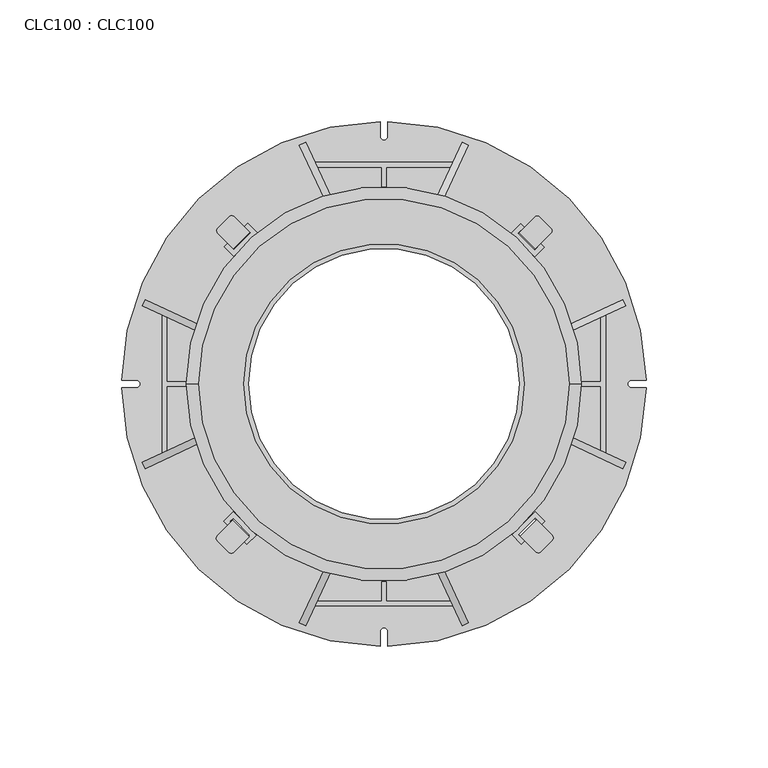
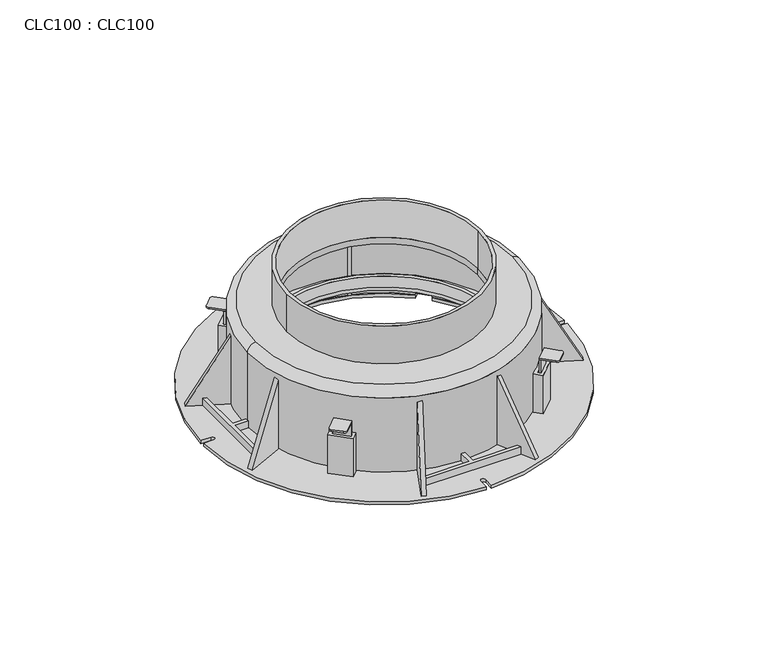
"""IFC4 building model written with IfcOpenShell, lengths in millimetres: proxy geometry, CLC100 : CLC100."""

from ifc_helpers import new_model, si_unit, point, frame, frame_2d, origin, origin_with_axes, origin_2d, place, context, project, spatial, polyline, circle_curve, ellipse_curve, trimmed, segment, composite_curve, outline, extrude, source, transform, mapped, element, save
from ifc_brep_helpers import plane_surface, cylinder_surface, revolved_surface, advanced_brep


def clc100_clc100_ec5de276(model_context):
    return source(origin(), model_context, "Body", "SolidModel", [
        extrude(outline(composite_curve([segment(trimmed(circle_curve(frame_2d((-67.0684866, 62.9016418)), 1.5), [point((-68.1291468, 61.8409816))], [point((-68.1291468, 63.9623019))], False, "CARTESIAN"), True, "CONTINUOUS"), segment(polyline([(-68.1291468, 63.9623019), (-63.5590618, 68.532387)]), True, "CONTINUOUS"), segment(trimmed(circle_curve(frame_2d((-62.4984016, 67.4717268)), 1.5), [point((-63.5590618, 68.532387))], [point((-61.4421098, 68.5367374))], False, "CARTESIAN"), True, "CONTINUOUS"), segment(polyline([(-61.4421098, 68.5367374), (-55.0476146, 62.1945917), (-61.7651857, 55.4770206), (-68.1291468, 61.8409816)]), True, "CONTINUOUS")], self_intersect=False)), frame((0.0, 0.0, 34.0), z_axis=(0.0, 0.0, 1.0), x_axis=(1.0, 0.0, 0.0)), (0.0, 0.0, 1.0), 1.0),
        extrude(outline(polyline([(-62.4751928, 56.1812151), (-55.7853449, 62.9262825), (-55.0753378, 62.222088), (-61.7651857, 55.4770206), (-62.4751928, 56.1812151)])), frame((0.0, 0.0, 14.4), z_axis=(0.0, 0.0, 1.0), x_axis=(1.0, 0.0, 0.0)), (0.0, 0.0, 1.0), 19.6),
        extrude(outline(polyline([(-65.5036952, 56.3609907), (-55.9577536, 65.9069322), (-52.0686663, 62.0178449), (-61.6146079, 52.4719034), (-65.5036952, 56.3609907)]), holes=[polyline([(-54.8970935, 62.0178449), (-55.9577536, 63.0785051), (-62.6752681, 56.3609907), (-61.6146079, 55.3003305), (-54.8970935, 62.0178449)])]), frame((0.0, 0.0, 2.0), z_axis=(0.0, 0.0, 1.0), x_axis=(1.0, 0.0, 0.0)), (0.0, 0.0, 1.0), 24.0),
        extrude(outline(composite_curve([segment(polyline([(68.4969756, 61.7522741), (62.1330146, 55.3883131), (55.4154434, 62.1058843), (61.8099387, 68.44803)]), True, "CONTINUOUS"), segment(trimmed(circle_curve(frame_2d((62.8662304, 67.3830193)), 1.5), [point((61.8099387, 68.44803))], [point((63.9268906, 68.4436795))], False, "CARTESIAN"), True, "CONTINUOUS"), segment(polyline([(63.9268906, 68.4436795), (68.4969756, 63.8735945)]), True, "CONTINUOUS"), segment(trimmed(circle_curve(frame_2d((67.4363155, 62.8129343)), 1.5), [point((68.4969756, 63.8735945))], [point((68.4969756, 61.7522741))], False, "CARTESIAN"), True, "CONTINUOUS")], self_intersect=False)), frame((0.0, 0.0, 34.0), z_axis=(0.0, 0.0, 1.0), x_axis=(1.0, 0.0, 0.0)), (0.0, 0.0, 1.0), 1.0),
        extrude(outline(polyline([(62.8430217, 56.0925076), (62.1330146, 55.3883131), (55.4431667, 62.1333805), (56.1531738, 62.8375751), (62.8430217, 56.0925076)])), frame((0.0, 0.0, 14.4), z_axis=(0.0, 0.0, 1.0), x_axis=(1.0, 0.0, 0.0)), (0.0, 0.0, 1.0), 19.6),
        extrude(outline(polyline([(65.6714249, 56.0808824), (61.7663859, 52.2078126), (52.2597599, 61.7929085), (56.164799, 65.6659783), (65.6714249, 56.0808824)]), holes=[polyline([(55.0881631, 61.7812833), (61.778011, 55.0362158), (62.8430217, 56.0925076), (56.1531738, 62.8375751), (55.0881631, 61.7812833)])]), frame((0.0, 0.0, 2.0), z_axis=(0.0, 0.0, 1.0), x_axis=(1.0, 0.0, 0.0)), (0.0, 0.0, 1.0), 24.0),
        extrude(outline(composite_curve([segment(polyline([(62.2332882, -68.7389117), (55.8693272, -62.3749506), (62.5868983, -55.6573795), (68.929044, -62.0518747)]), True, "CONTINUOUS"), segment(trimmed(circle_curve(frame_2d((67.8640334, -63.1081665)), 1.5), [point((68.929044, -62.0518747))], [point((68.9246936, -64.1688267))], False, "CARTESIAN"), True, "CONTINUOUS"), segment(polyline([(68.9246936, -64.1688267), (64.3546085, -68.7389117)]), True, "CONTINUOUS"), segment(trimmed(circle_curve(frame_2d((63.2939484, -67.6782515)), 1.5), [point((64.3546085, -68.7389117))], [point((62.2332882, -68.7389117))], False, "CARTESIAN"), True, "CONTINUOUS")], self_intersect=False)), frame((0.0, 0.0, 34.0), z_axis=(0.0, 0.0, 1.0), x_axis=(1.0, 0.0, 0.0)), (0.0, 0.0, 1.0), 1.0),
        extrude(outline(polyline([(56.5735217, -63.0849577), (55.8693272, -62.3749506), (62.6143946, -55.6851027), (63.3185891, -56.3951098), (56.5735217, -63.0849577)])), frame((0.0, 0.0, 14.4), z_axis=(0.0, 0.0, 1.0), x_axis=(1.0, 0.0, 0.0)), (0.0, 0.0, 1.0), 19.6),
        extrude(outline(polyline([(56.4017371, -65.7618999), (52.5126498, -61.8728126), (62.0585914, -52.3268711), (65.9476787, -56.2159584), (56.4017371, -65.7618999)]), holes=[polyline([(62.0585914, -55.1552982), (55.3410769, -61.8728126), (56.4017371, -62.9334728), (63.1192515, -56.2159584), (62.0585914, -55.1552982)])]), frame((0.0, 0.0, 2.0), z_axis=(0.0, 0.0, 1.0), x_axis=(1.0, 0.0, 0.0)), (0.0, 0.0, 1.0), 24.0),
        extrude(outline(composite_curve([segment(trimmed(circle_curve(frame_2d((-62.6568377, -67.8909797)), 1.5), [point((-61.5961775, -68.9516399))], [point((-63.7174979, -68.9516399))], False, "CARTESIAN"), True, "CONTINUOUS"), segment(polyline([(-63.7174979, -68.9516399), (-68.2875829, -64.3815549)]), True, "CONTINUOUS"), segment(trimmed(circle_curve(frame_2d((-67.2269227, -63.3208947)), 1.5), [point((-68.2875829, -64.3815549))], [point((-68.2919334, -62.2646029))], False, "CARTESIAN"), True, "CONTINUOUS"), segment(polyline([(-68.2919334, -62.2646029), (-61.9497877, -55.8701077), (-55.2322165, -62.5876788), (-61.5961775, -68.9516399)]), True, "CONTINUOUS")], self_intersect=False)), frame((0.0, 0.0, 34.0), z_axis=(0.0, 0.0, 1.0), x_axis=(1.0, 0.0, 0.0)), (0.0, 0.0, 1.0), 1.0),
        extrude(outline(polyline([(-55.936411, -63.2976859), (-62.6814785, -56.607838), (-61.977284, -55.8978309), (-55.2322165, -62.5876788), (-55.936411, -63.2976859)])), frame((0.0, 0.0, 14.4), z_axis=(0.0, 0.0, 1.0), x_axis=(1.0, 0.0, 0.0)), (0.0, 0.0, 1.0), 19.6),
        extrude(outline(polyline([(-56.3069632, -65.8223817), (-65.8135892, -56.2372859), (-61.9085501, -52.364216), (-52.4019242, -61.9493119), (-56.3069632, -65.8223817)]), holes=[polyline([(-61.9201753, -55.1926193), (-62.9851859, -56.248911), (-56.295338, -62.9939785), (-55.2303274, -61.9376867), (-61.9201753, -55.1926193)])]), frame((0.0, 0.0, 2.0), z_axis=(0.0, 0.0, 1.0), x_axis=(1.0, 0.0, 0.0)), (0.0, 0.0, 1.0), 24.0),
        extrude(outline(polyline([(-1.0, -81.0), (1.0, -81.0), (1.0, -89.0), (27.3663457, -89.0), (28.298961, -91.0), (-28.298961, -91.0), (-27.3663457, -89.0), (-1.0, -89.0), (-1.0, -81.0)])), frame((0.0, 0.0, 2.0), z_axis=(0.0, 0.0, 1.0), x_axis=(1.0, 0.0, 0.0)), (0.0, 0.0, 1.0), 4.5),
        extrude(outline(polyline([(51.4781507, 0.0), (12.1410733, -21.8539319), (0.0, 0.0), (51.4781507, 0.0)])), frame((32.1180118, -99.1899807, 2.0), z_axis=(0.906307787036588, 0.4226182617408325, 0.0), x_axis=(-0.2052415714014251, 0.4401419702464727, 0.874157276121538)), (0.0, 0.0, 1.0), 2.8),
        extrude(outline(polyline([(45.0, 0.0), (0.0, -25.0), (0.0, 0.0), (45.0, 0.0)])), frame((-21.5525552, -76.5322861, 2.0), z_axis=(-0.906307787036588, 0.4226182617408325, 0.0), x_axis=(0.0, 0.0, 1.0)), (0.0, 0.0, 1.0), 2.8),
        extrude(outline(polyline([(81.0, -1.0), (81.0, 1.0), (89.0, 1.0), (89.0, 27.3663457), (91.0, 28.298961), (91.0, -28.298961), (89.0, -27.3663457), (89.0, -1.0), (81.0, -1.0)])), frame((0.0, 0.0, 2.0), z_axis=(0.0, 0.0, 1.0), x_axis=(1.0, 0.0, 0.0)), (0.0, 0.0, 1.0), 4.5),
        extrude(outline(polyline([(-45.0, 0.0), (0.0, 0.0), (0.0, -25.0), (-45.0, 0.0)])), frame((76.5322861, 21.5525552, 2.0), z_axis=(-0.4226182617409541, 0.9063077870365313, 0.0), x_axis=(0.0, 0.0, -1.0)), (0.0, 0.0, 1.0), 2.8),
        extrude(outline(polyline([(51.4781507, 0.0), (12.1410733, -21.8539319), (0.0, 0.0), (51.4781507, 0.0)])), frame((98.0066496, -34.6556736, 2.0), z_axis=(0.4226182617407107, 0.9063077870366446, 0.0), x_axis=(-0.4401419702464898, 0.20524157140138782, 0.8741572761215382)), (0.0, 0.0, 1.0), 2.8),
        extrude(outline(polyline([(1.0, 81.0), (-1.0, 81.0), (-1.0, 89.0), (-27.3663457, 89.0), (-28.298961, 91.0), (28.298961, 91.0), (27.3663457, 89.0), (1.0, 89.0), (1.0, 81.0)])), frame((0.0, 0.0, 2.0), z_axis=(0.0, 0.0, 1.0), x_axis=(1.0, 0.0, 0.0)), (0.0, 0.0, 1.0), 4.5),
        extrude(outline(polyline([(45.0, 0.0), (0.0, -25.0), (0.0, 0.0), (45.0, 0.0)])), frame((-24.090217, 75.3489549, 2.0), z_axis=(0.906307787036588, 0.4226182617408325, 0.0), x_axis=(0.0, 0.0, 1.0)), (0.0, 0.0, 1.0), 2.8),
        extrude(outline(polyline([(51.4781507, 0.0), (12.1410733, -21.8539319), (0.0, 0.0), (51.4781507, 0.0)])), frame((34.6556736, 98.0066496, 2.0), z_axis=(-0.906307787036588, 0.4226182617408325, 0.0), x_axis=(-0.20524157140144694, -0.4401419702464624, 0.8741572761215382)), (0.0, 0.0, 1.0), 2.8),
        extrude(outline(polyline([(-81.0, 1.0), (-81.0, -1.0), (-89.0, -1.0), (-89.0, -27.3663457), (-91.0, -28.298961), (-91.0, 28.298961), (-89.0, 27.3663457), (-89.0, 1.0), (-81.0, 1.0)])), frame((0.0, 0.0, 2.0), z_axis=(0.0, 0.0, 1.0), x_axis=(1.0, 0.0, 0.0)), (0.0, 0.0, 1.0), 4.5),
        extrude(outline(polyline([(-51.4781507, 0.0), (0.0, 0.0), (-12.1410733, -21.8539319), (-51.4781507, 0.0)])), frame((-98.0066496, -34.6556736, 2.0), z_axis=(-0.4226182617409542, 0.9063077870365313, 0.0), x_axis=(-0.4401419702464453, -0.20524157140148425, -0.8741572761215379)), (0.0, 0.0, 1.0), 2.8),
        extrude(outline(polyline([(45.0, 0.0), (0.0, -25.0), (0.0, 0.0), (45.0, 0.0)])), frame((-76.5322861, 21.5525552, 2.0), z_axis=(0.4226182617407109, 0.9063077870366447, 0.0), x_axis=(0.0, 0.0, 1.0)), (0.0, 0.0, 1.0), 2.8),
        extrude(outline(composite_curve([segment(trimmed(circle_curve(origin_2d(), 57.5), [point((-57.5, 0.0))], [point((57.5, 0.0))], False, "CARTESIAN"), True, "CONTINUOUS"), segment(trimmed(circle_curve(origin_2d(), 57.5), [point((57.5, 0.0))], [point((-57.5, 0.0))], False, "CARTESIAN"), True, "CONTINUOUS")], self_intersect=False), holes=[composite_curve([segment(trimmed(circle_curve(origin_2d(), 55.5), [point((-55.5, 0.0))], [point((55.5, 0.0))], True, "CARTESIAN"), True, "CONTINUOUS"), segment(trimmed(circle_curve(origin_2d(), 55.5), [point((55.5, 0.0))], [point((-55.5, 0.0))], True, "CARTESIAN"), True, "CONTINUOUS")], self_intersect=False)]), frame((0.0, 0.0, 53.5), z_axis=(0.0, 0.0, 1.0), x_axis=(1.0, 0.0, 0.0)), (0.0, 0.0, 1.0), 23.5),
        advanced_brep(
        [(-79.0, 0.0, 14.4), (79.0, 0.0, 14.4), (-69.0, 0.0, 14.4), (69.0, 0.0, 14.4), (-79.0, 0.0, 12.4), (79.0, 0.0, 12.4), (-67.0, 0.0, 12.4), (67.0, 0.0, 12.4), (67.0, 0.0, 14.4), (-67.0, 0.0, 14.4), (69.0, 0.0, 21.3), (-69.0, 0.0, 21.3), (-67.0, 0.0, 21.3), (67.0, 0.0, 21.3)],
        [
            (0, 1, circle_curve(frame((0.0, 0.0, 14.4), z_axis=(0.0, 0.0, 1.0), x_axis=(1.0, 0.0, 0.0)), 79.0)),
            (1, 0, circle_curve(frame((0.0, 0.0, 14.4), z_axis=(0.0, 0.0, 1.0), x_axis=(1.0, 0.0, 0.0)), 79.0)),
            (2, 3, circle_curve(frame((0.0, 0.0, 14.4), z_axis=(0.0, 0.0, -1.0), x_axis=(1.0, 0.0, 0.0)), 69.0)),
            (3, 2, circle_curve(frame((0.0, 0.0, 14.4), z_axis=(0.0, 0.0, -1.0), x_axis=(1.0, 0.0, 0.0)), 69.0)),
            (4, 5, circle_curve(frame((0.0, 0.0, 12.4), z_axis=(0.0, 0.0, -1.0), x_axis=(1.0, 0.0, 0.0)), 79.0)),
            (5, 4, circle_curve(frame((0.0, 0.0, 12.4), z_axis=(0.0, 0.0, -1.0), x_axis=(1.0, 0.0, 0.0)), 79.0)),
            (6, 7, circle_curve(frame((0.0, 0.0, 12.4), z_axis=(0.0, 0.0, 1.0), x_axis=(1.0, 0.0, 0.0)), 67.0)),
            (7, 6, circle_curve(frame((0.0, 0.0, 12.4), z_axis=(0.0, 0.0, 1.0), x_axis=(1.0, 0.0, 0.0)), 67.0)),
            (7, 8),
            (8, 9, circle_curve(frame((0.0, 0.0, 14.4), z_axis=(0.0, 0.0, 1.0), x_axis=(1.0, 0.0, 0.0)), 67.0)),
            (9, 6),
            (9, 8, circle_curve(frame((0.0, 0.0, 14.4), z_axis=(0.0, 0.0, 1.0), x_axis=(1.0, 0.0, 0.0)), 67.0)),
            (0, 4),
            (5, 1),
            (10, 11, circle_curve(frame((0.0, 0.0, 21.3), z_axis=(0.0, 0.0, 1.0), x_axis=(1.0, 0.0, 0.0)), 69.0)),
            (11, 10, circle_curve(frame((0.0, 0.0, 21.3), z_axis=(0.0, 0.0, 1.0), x_axis=(1.0, 0.0, 0.0)), 69.0)),
            (12, 13, circle_curve(frame((0.0, 0.0, 21.3), z_axis=(0.0, 0.0, -1.0), x_axis=(1.0, 0.0, 0.0)), 67.0)),
            (13, 12, circle_curve(frame((0.0, 0.0, 21.3), z_axis=(0.0, 0.0, -1.0), x_axis=(1.0, 0.0, 0.0)), 67.0)),
            (12, 9),
            (8, 13),
            (10, 3),
            (2, 11),
        ],
        [
            plane_surface(frame((67.0, 0.0, 14.4), z_axis=(0.0, 0.0, 1.0), x_axis=(0.0, -1.0, 0.0))),
            plane_surface(frame((67.0, 0.0, 12.4), z_axis=(0.0, 0.0, -1.0), x_axis=(0.0, 1.0, 0.0))),
            revolved_surface(polyline([(67.0, 0.0, 12.4), (67.0, 0.0, 14.4)]), (0.0, 0.0, 12.4), (0.0, 0.0, -1.0)),
            cylinder_surface(origin_with_axes(), 79.0),
            plane_surface(frame((67.0, 0.0, 21.3), z_axis=(0.0, 0.0, 1.0), x_axis=(0.0, -1.0, 0.0))),
            revolved_surface(polyline([(67.0, 0.0, 14.4), (67.0, 0.0, 21.3)]), (0.0, 0.0, 14.4), (0.0, 0.0, -1.0)),
            cylinder_surface(frame((0.0, 0.0, 14.4), z_axis=(0.0, 0.0, 1.0), x_axis=(1.0, 0.0, 0.0)), 69.0),
        ],
        [
            (0, [[1, 2], [3, 4]]),
            (1, [[5, 6], [7, 8]]),
            (2, [[-8, 9, 10, 11]]),
            (2, [[-7, -11, 12, -9]]),
            (3, [[-1, 13, -6, 14]]),
            (3, [[-2, -14, -5, -13]]),
            (4, [[15, 16], [17, 18]]),
            (5, [[-17, 19, -10, 20]]),
            (5, [[-18, -20, -12, -19]]),
            (6, [[-15, 21, -3, 22]]),
            (6, [[-16, -22, -4, -21]]),
        ],
    ),
        extrude(outline(composite_curve([segment(trimmed(circle_curve(frame_2d((101.487194, 0.0)), 1.5), [point((101.487194, 1.5))], [point((101.487194, -1.5))], True, "CARTESIAN"), True, "CONTINUOUS"), segment(polyline([(101.487194, -1.5), (107.4895344, -1.5)]), True, "CONTINUOUS"), segment(trimmed(circle_curve(origin_2d(), 107.5), [point((107.4895344, -1.5))], [point((1.5, -107.4895344))], False, "CARTESIAN"), True, "CONTINUOUS"), segment(polyline([(1.5, -107.4895344), (1.5, -101.487194)]), True, "CONTINUOUS"), segment(trimmed(circle_curve(frame_2d((0.0, -101.487194)), 1.5), [point((1.5, -101.487194))], [point((-1.5, -101.487194))], True, "CARTESIAN"), True, "CONTINUOUS"), segment(polyline([(-1.5, -101.487194), (-1.5, -107.4895344)]), True, "CONTINUOUS"), segment(trimmed(circle_curve(origin_2d(), 107.5), [point((-1.5, -107.4895344))], [point((-107.4895344, -1.5))], False, "CARTESIAN"), True, "CONTINUOUS"), segment(polyline([(-107.4895344, -1.5), (-101.487194, -1.5)]), True, "CONTINUOUS"), segment(trimmed(circle_curve(frame_2d((-101.487194, 0.0)), 1.5), [point((-101.487194, -1.5))], [point((-101.487194, 1.5))], True, "CARTESIAN"), True, "CONTINUOUS"), segment(polyline([(-101.487194, 1.5), (-107.4895344, 1.5)]), True, "CONTINUOUS"), segment(trimmed(circle_curve(origin_2d(), 107.5), [point((-107.4895344, 1.5))], [point((-1.5, 107.4895344))], False, "CARTESIAN"), True, "CONTINUOUS"), segment(polyline([(-1.5, 107.4895344), (-1.5, 101.487194)]), True, "CONTINUOUS"), segment(trimmed(circle_curve(frame_2d((0.0, 101.487194)), 1.5), [point((-1.5, 101.487194))], [point((1.5, 101.487194))], True, "CARTESIAN"), True, "CONTINUOUS"), segment(polyline([(1.5, 101.487194), (1.5, 107.4895344)]), True, "CONTINUOUS"), segment(trimmed(circle_curve(origin_2d(), 107.5), [point((1.5, 107.4895344))], [point((107.4895344, 1.5))], False, "CARTESIAN"), True, "CONTINUOUS"), segment(polyline([(107.4895344, 1.5), (101.487194, 1.5)]), True, "CONTINUOUS")], self_intersect=False), holes=[composite_curve([segment(trimmed(circle_curve(origin_2d(), 79.0), [point((58.9527166, -52.5887555))], [point((79.0, 0.0))], True, "CARTESIAN"), True, "CONTINUOUS"), segment(trimmed(circle_curve(origin_2d(), 79.0), [point((79.0, 0.0))], [point((58.9527166, 52.5887555))], True, "CARTESIAN"), True, "CONTINUOUS"), segment(polyline([(58.9527166, 52.5887555), (62.6261911, 56.26223), (56.26223, 62.6261911), (52.5887555, 58.9527166)]), True, "CONTINUOUS"), segment(trimmed(circle_curve(origin_2d(), 79.0), [point((52.5887555, 58.9527166))], [point((-52.5887555, 58.9527166))], True, "CARTESIAN"), True, "CONTINUOUS"), segment(polyline([(-52.5887555, 58.9527166), (-56.26223, 62.6261911), (-62.6261911, 56.26223), (-58.9527166, 52.5887555)]), True, "CONTINUOUS"), segment(trimmed(circle_curve(origin_2d(), 79.0), [point((-58.9527166, 52.5887555))], [point((-79.0, 0.0))], True, "CARTESIAN"), True, "CONTINUOUS"), segment(trimmed(circle_curve(origin_2d(), 79.0), [point((-79.0, 0.0))], [point((-58.9527166, -52.5887555))], True, "CARTESIAN"), True, "CONTINUOUS"), segment(polyline([(-58.9527166, -52.5887555), (-62.6261911, -56.26223), (-56.26223, -62.6261911), (-52.5887555, -58.9527166)]), True, "CONTINUOUS"), segment(trimmed(circle_curve(origin_2d(), 79.0), [point((-52.5887555, -58.9527166))], [point((52.5887555, -58.9527166))], True, "CARTESIAN"), True, "CONTINUOUS"), segment(polyline([(52.5887555, -58.9527166), (56.26223, -62.6261911), (62.6261911, -56.26223), (58.9527166, -52.5887555)]), True, "CONTINUOUS")], self_intersect=False)]), origin_with_axes(), (0.0, 0.0, 1.0), 2.0),
        advanced_brep(
        [(76.0, 0.0, 53.5), (-76.0, 0.0, 53.5), (55.5, 0.0, 53.5), (-55.5, 0.0, 53.5), (60.3691731, 54.0052121, 2.0), (81.0, 0.0, 2.0), (60.3691731, -54.0052121, 2.0), (58.9527166, -52.5887555, 2.0), (79.0, 0.0, 2.0), (58.9527166, 52.5887555, 2.0), (54.0052121, -60.3691731, 2.0), (-54.0052121, -60.3691731, 2.0), (-52.5887555, -58.9527166, 2.0), (52.5887555, -58.9527166, 2.0), (-81.0, 0.0, 2.0), (-60.3691731, 54.0052121, 2.0), (-58.9527166, 52.5887555, 2.0), (-79.0, 0.0, 2.0), (-58.9527166, -52.5887555, 2.0), (-60.3691731, -54.0052121, 2.0), (-54.0052121, 60.3691731, 2.0), (54.0052121, 60.3691731, 2.0), (52.5887555, 58.9527166, 2.0), (-52.5887555, 58.9527166, 2.0), (-81.0, 0.0, 48.5000153), (-60.3691731, -54.0052121, 5.0), (-54.0052121, -60.3691731, 5.0), (54.0052121, -60.3691731, 5.0), (60.3691731, -54.0052121, 5.0), (81.0, 0.0, 48.5000029), (60.3691731, 54.0052121, 5.0), (54.0052121, 60.3691731, 5.0), (-54.0052121, 60.3691731, 5.0), (-60.3691731, 54.0052121, 5.0), (-79.0, 0.0, 49.5), (79.0, 0.0, 49.5), (-55.5, 0.0, 49.5), (55.5, 0.0, 49.5), (58.9527166, -52.5887555, 5.0), (52.5887555, -58.9527166, 5.0), (-52.5887555, -58.9527166, 5.0), (-58.9527166, -52.5887555, 5.0), (-58.9527166, 52.5887555, 5.0), (-52.5887555, 58.9527166, 5.0), (52.5887555, 58.9527166, 5.0), (58.9527166, 52.5887555, 5.0)],
        [
            (0, 1, circle_curve(frame((0.0, 0.0, 53.5), z_axis=(0.0, 0.0, 1.0), x_axis=(1.0, 0.0, 0.0)), 76.0)),
            (1, 0, circle_curve(frame((0.0, 0.0, 53.5), z_axis=(0.0, 0.0, 1.0), x_axis=(1.0, 0.0, 0.0)), 76.0)),
            (2, 3, circle_curve(frame((0.0, 0.0, 53.5), z_axis=(0.0, 0.0, -1.0), x_axis=(1.0, 0.0, 0.0)), 55.5)),
            (3, 2, circle_curve(frame((0.0, 0.0, 53.5), z_axis=(0.0, 0.0, -1.0), x_axis=(1.0, 0.0, 0.0)), 55.5)),
            (4, 5, circle_curve(frame((0.0, 0.0, 2.0), z_axis=(0.0, 0.0, -1.0), x_axis=(1.0, 0.0, 0.0)), 81.0)),
            (5, 6, circle_curve(frame((0.0, 0.0, 2.0), z_axis=(0.0, 0.0, -1.0), x_axis=(1.0, 0.0, 0.0)), 81.0)),
            (6, 7),
            (7, 8, circle_curve(frame((0.0, 0.0, 2.0), z_axis=(0.0, 0.0, 1.0), x_axis=(1.0, 0.0, 0.0)), 79.0)),
            (8, 9, circle_curve(frame((0.0, 0.0, 2.0), z_axis=(0.0, 0.0, 1.0), x_axis=(1.0, 0.0, 0.0)), 79.0)),
            (9, 4),
            (10, 11, circle_curve(frame((0.0, 0.0, 2.0), z_axis=(0.0, 0.0, -1.0), x_axis=(1.0, 0.0, 0.0)), 81.0)),
            (11, 12),
            (12, 13, circle_curve(frame((0.0, 0.0, 2.0), z_axis=(0.0, 0.0, 1.0), x_axis=(1.0, 0.0, 0.0)), 79.0)),
            (13, 10),
            (14, 15, circle_curve(frame((0.0, 0.0, 2.0), z_axis=(0.0, 0.0, -1.0), x_axis=(1.0, 0.0, 0.0)), 81.0)),
            (15, 16),
            (16, 17, circle_curve(frame((0.0, 0.0, 2.0), z_axis=(0.0, 0.0, 1.0), x_axis=(1.0, 0.0, 0.0)), 79.0)),
            (17, 18, circle_curve(frame((0.0, 0.0, 2.0), z_axis=(0.0, 0.0, 1.0), x_axis=(1.0, 0.0, 0.0)), 79.0)),
            (18, 19),
            (19, 14, circle_curve(frame((0.0, 0.0, 2.0), z_axis=(0.0, 0.0, -1.0), x_axis=(1.0, 0.0, 0.0)), 81.0)),
            (20, 21, circle_curve(frame((0.0, 0.0, 2.0), z_axis=(0.0, 0.0, -1.0), x_axis=(1.0, 0.0, 0.0)), 81.0)),
            (21, 22),
            (22, 23, circle_curve(frame((0.0, 0.0, 2.0), z_axis=(0.0, 0.0, 1.0), x_axis=(1.0, 0.0, 0.0)), 79.0)),
            (23, 20),
            (24, 14),
            (19, 25),
            (25, 26, circle_curve(frame((0.0, 0.0, 5.0), z_axis=(0.0, 0.0, 1.0), x_axis=(1.0, 0.0, 0.0)), 81.0)),
            (26, 11),
            (10, 27),
            (27, 28, circle_curve(frame((0.0, 0.0, 5.0), z_axis=(0.0, 0.0, 1.0), x_axis=(1.0, 0.0, 0.0)), 81.0)),
            (28, 6),
            (5, 29),
            (29, 24, circle_curve(frame((0.0, 0.0, 48.5), z_axis=(0.0, 0.0, -1.0), x_axis=(1.0, 0.0, 0.0)), 81.0)),
            (24, 29, circle_curve(frame((0.0, 0.0, 48.5), z_axis=(0.0, 0.0, -1.0), x_axis=(1.0, 0.0, 0.0)), 81.0)),
            (4, 30),
            (30, 31, circle_curve(frame((0.0, 0.0, 5.0), z_axis=(0.0, 0.0, 1.0), x_axis=(1.0, 0.0, 0.0)), 81.0)),
            (31, 21),
            (20, 32),
            (32, 33, circle_curve(frame((0.0, 0.0, 5.0), z_axis=(0.0, 0.0, 1.0), x_axis=(1.0, 0.0, 0.0)), 81.0)),
            (33, 15),
            (34, 35, circle_curve(frame((0.0, 0.0, 49.5), z_axis=(0.0, 0.0, -1.0), x_axis=(1.0, 0.0, 0.0)), 79.0)),
            (35, 34, circle_curve(frame((0.0, 0.0, 49.5), z_axis=(0.0, 0.0, -1.0), x_axis=(1.0, 0.0, 0.0)), 79.0)),
            (36, 37, circle_curve(frame((0.0, 0.0, 49.5), z_axis=(0.0, 0.0, 1.0), x_axis=(1.0, 0.0, 0.0)), 55.5)),
            (37, 36, circle_curve(frame((0.0, 0.0, 49.5), z_axis=(0.0, 0.0, 1.0), x_axis=(1.0, 0.0, 0.0)), 55.5)),
            (35, 8),
            (7, 38),
            (38, 39, circle_curve(frame((0.0, 0.0, 5.0), z_axis=(0.0, 0.0, -1.0), x_axis=(1.0, 0.0, 0.0)), 79.0)),
            (39, 13),
            (12, 40),
            (40, 41, circle_curve(frame((0.0, 0.0, 5.0), z_axis=(0.0, 0.0, -1.0), x_axis=(1.0, 0.0, 0.0)), 79.0)),
            (41, 18),
            (17, 34),
            (16, 42),
            (42, 43, circle_curve(frame((0.0, 0.0, 5.0), z_axis=(0.0, 0.0, -1.0), x_axis=(1.0, 0.0, 0.0)), 79.0)),
            (43, 23),
            (22, 44),
            (44, 45, circle_curve(frame((0.0, 0.0, 5.0), z_axis=(0.0, 0.0, -1.0), x_axis=(1.0, 0.0, 0.0)), 79.0)),
            (45, 9),
            (36, 3),
            (2, 37),
            (30, 45),
            (44, 31),
            (27, 39),
            (38, 28),
            (25, 41),
            (40, 26),
            (32, 43),
            (42, 33),
            (24, 1, circle_curve(frame((-76.0, 0.0, 48.5), z_axis=(0.0, 1.0, 0.0), x_axis=(-1.0, 0.0, 0.0)), 5.0)),
            (0, 29, circle_curve(frame((76.0, 0.0, 48.5), z_axis=(0.0, 1.0, 0.0), x_axis=(1.0, 0.0, 0.0)), 5.0)),
        ],
        [
            plane_surface(frame((81.0, 0.0, 53.5), z_axis=(0.0, 0.0, 1.0), x_axis=(0.0, 1.0, 0.0))),
            plane_surface(frame((81.0, 0.0, 2.0), z_axis=(0.0, 0.0, -1.0), x_axis=(0.0, -1.0, 0.0))),
            cylinder_surface(frame((0.0, 0.0, 2.0), z_axis=(0.0, 0.0, 1.0), x_axis=(1.0, 0.0, 0.0)), 81.0),
            plane_surface(frame((79.0, 0.0, 49.5), z_axis=(0.0, 0.0, -1.0), x_axis=(0.0, 1.0, 0.0))),
            revolved_surface(polyline([(79.0, 0.0, 49.5), (79.0, 0.0, 2.0)]), (0.0, 0.0, 0.0), (0.0, 0.0, 1.0)),
            revolved_surface(polyline([(55.5, 0.0, 53.5), (55.5, 0.0, 49.5)]), (0.0, 0.0, 36.8802368), (0.0, 0.0, 1.0)),
            plane_surface(frame((62.6261911, 56.26223, 5.0), z_axis=(0.0, 0.0, -1.0000000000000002), x_axis=(-0.7071067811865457, 0.7071067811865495, 0.0))),
            revolved_surface(trimmed(ellipse_curve(frame((76.0, 0.0, 48.5), z_axis=(0.0, -1.0, 0.0), x_axis=(1.0, 0.0, 0.0)), 5.0, 5.0), [point((81.0, 0.0, 48.5))], [point((76.0, 0.0, 53.5))], True, "CARTESIAN"), (0.0, 0.0, 113.5), (0.0, 0.0, 1.0)),
            plane_surface(frame((56.26223, 62.6261911, 5.0), z_axis=(0.7071067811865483, -0.7071067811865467, 0.0), x_axis=(0.0, 0.0, -1.0))),
            plane_surface(frame((58.9527166, 52.5887555, 5.0), z_axis=(-0.7071067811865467, 0.7071067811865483, 0.0), x_axis=(0.0, 0.0, -1.0))),
            plane_surface(frame((62.6261911, -56.26223, 5.0), z_axis=(-0.70710678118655, -0.7071067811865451, 0.0), x_axis=(0.0, 0.0, -1.0))),
            plane_surface(frame((52.5887555, -58.9527166, 5.0), z_axis=(0.7071067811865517, 0.7071067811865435, 0.0), x_axis=(0.0, 0.0, -1.0))),
            plane_surface(frame((-56.26223, -62.6261911, 5.0), z_axis=(-0.7071067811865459, 0.7071067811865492, 0.0), x_axis=(0.0, 0.0, -1.0))),
            plane_surface(frame((-58.9527166, -52.5887555, 5.0), z_axis=(0.7071067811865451, -0.70710678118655, 0.0), x_axis=(0.0, 0.0, -1.0))),
            plane_surface(frame((-62.6261911, 56.26223, 5.0), z_axis=(0.7071067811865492, 0.7071067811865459, 0.0), x_axis=(0.0, 0.0, -1.0))),
            plane_surface(frame((-52.5887555, 58.9527166, 5.0), z_axis=(-0.7071067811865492, -0.7071067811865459, 0.0), x_axis=(0.0, 0.0, -1.0))),
        ],
        [
            (0, [[1, 2], [3, 4]]),
            (1, [[5, 6, 7, 8, 9, 10]]),
            (1, [[11, 12, 13, 14]]),
            (1, [[15, 16, 17, 18, 19, 20]]),
            (1, [[21, 22, 23, 24]]),
            (2, [[25, -20, 26, 27, 28, -11, 29, 30, 31, -6, 32, 33]]),
            (2, [[-25, 34, -32, -5, 35, 36, 37, -21, 38, 39, 40, -15]]),
            (3, [[41, 42], [43, 44]]),
            (4, [[-42, 45, -8, 46, 47, 48, -13, 49, 50, 51, -18, 52]]),
            (4, [[-41, -52, -17, 53, 54, 55, -23, 56, 57, 58, -9, -45]]),
            (5, [[59, -3, 60, -43]]),
            (5, [[-59, -44, -60, -4]]),
            (6, [[61, -57, 62, -36]]),
            (6, [[63, -47, 64, -30]]),
            (6, [[65, -50, 66, -27]]),
            (6, [[67, -54, 68, -39]]),
            (7, [[69, -1, 70, -34]]),
            (7, [[-69, -33, -70, -2]]),
            (8, [[-62, -56, -22, -37]]),
            (9, [[-61, -35, -10, -58]]),
            (10, [[-64, -46, -7, -31]]),
            (11, [[-63, -29, -14, -48]]),
            (12, [[-66, -49, -12, -28]]),
            (13, [[-65, -26, -19, -51]]),
            (14, [[-68, -53, -16, -40]]),
            (15, [[-67, -38, -24, -55]]),
        ],
    ),
    ])


if __name__ == "__main__":
    model = new_model("IFC4")
    model_context = context("Model", 3, world=origin())
    ifc_project = project(units=[si_unit("LENGTHUNIT", "METRE", prefix="MILLI")], contexts=[model_context])
    site = spatial("IfcSite", under=ifc_project)
    building = spatial("IfcBuilding", under=site)
    placement = place(None, origin())
    clc100_clc100_shape = clc100_clc100_ec5de276(model_context)
    element("IfcBuildingElementProxy", 1, Name="CLC100 : CLC100", ObjectType="CLC100 : CLC100", at=placement, inside=building, context=model_context, shape_type="MappedRepresentation", body=[
        mapped(clc100_clc100_shape, transform((0.0, 0.0, 0.0), x_axis=(1.0, 0.0, 0.0), y_axis=(0.0, 1.0, 0.0), z_axis=(0.0, 0.0, 1.0))),
    ])
    save(model, "model.ifc")
